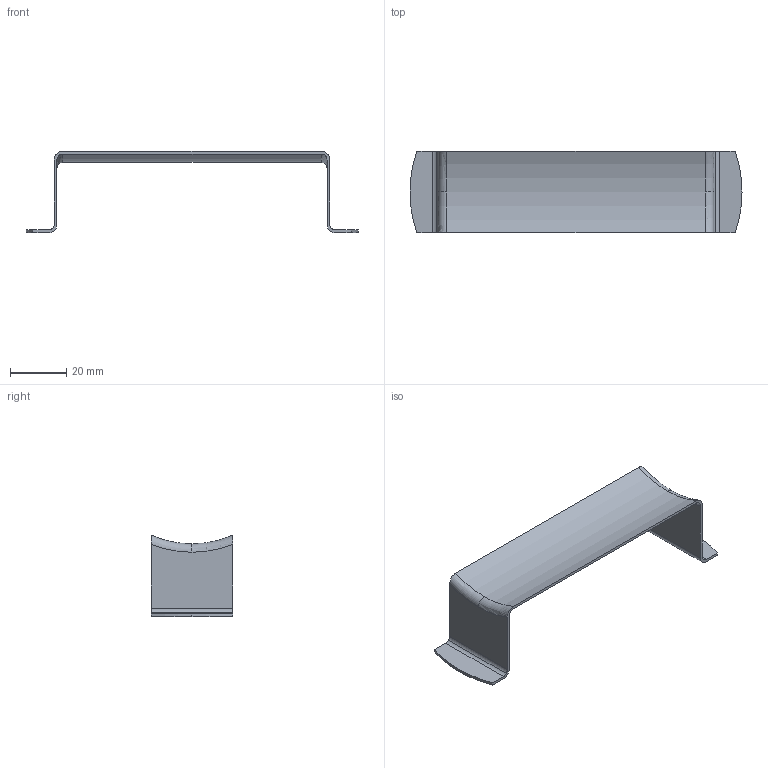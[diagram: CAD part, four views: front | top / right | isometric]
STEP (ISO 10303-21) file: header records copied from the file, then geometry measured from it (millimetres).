
FILE_DESCRIPTION((''),'2;1');
FILE_NAME('3104.stp','2023-10-09T16:15:19',(''),(''),'Mechanical Desktop 2006','Mechanical Desktop 2006',', , ');
FILE_SCHEMA(('CONFIG_CONTROL_DESIGN'));
Length unit declared in the file: millimetre
Products named in the file (2): 3104.00; TEIL1
Assembly tree (1 placements, depth 2):
  3104.00
    TEIL1
Bounding box: 118 x 29 x 29 mm (x, y, z)
Volume: 4583.6 mm3; surface area: 10061.2 mm2
Topology: 1 solids, 1 shells, 32 faces, 90 edges, 60 vertices
Faces by surface type: cylinder 14, plane 10, bspline 4, torus 4
Entity records: 1543 total; most frequent: CARTESIAN_POINT 592, DIRECTION 186, ORIENTED_EDGE 180, EDGE_CURVE 90, AXIS2_PLACEMENT_3D 74, VERTEX_POINT 60, CIRCLE 44, VECTOR 38
